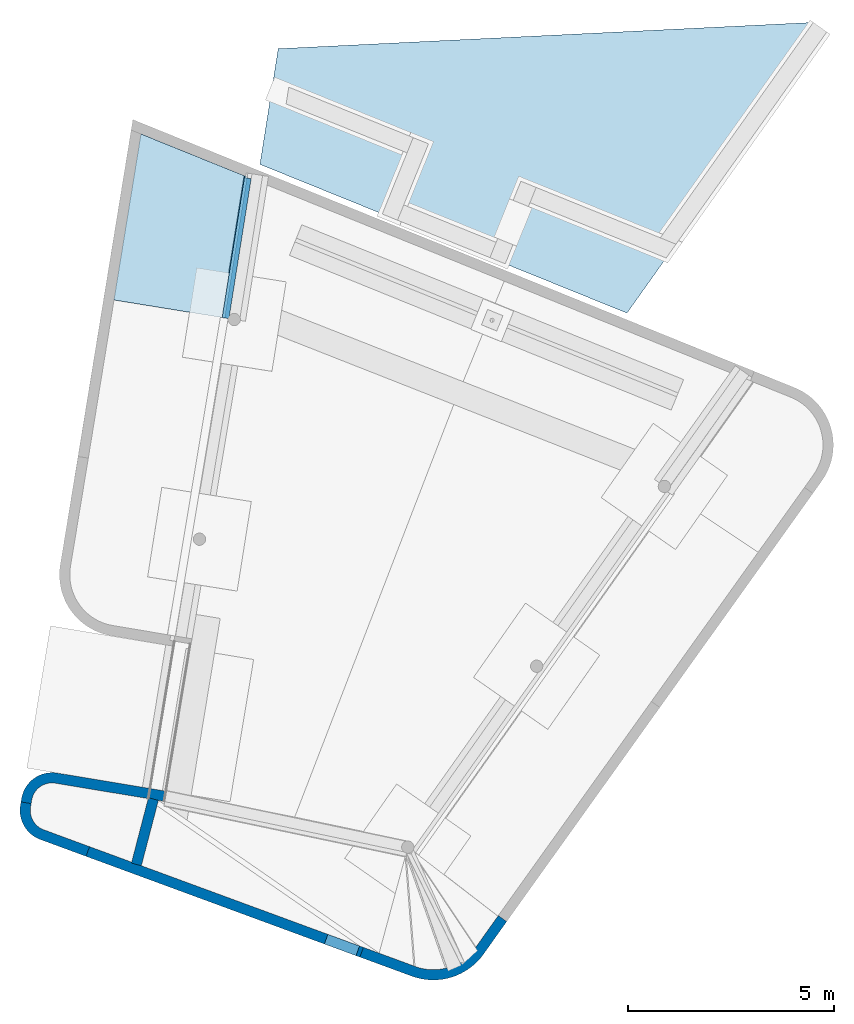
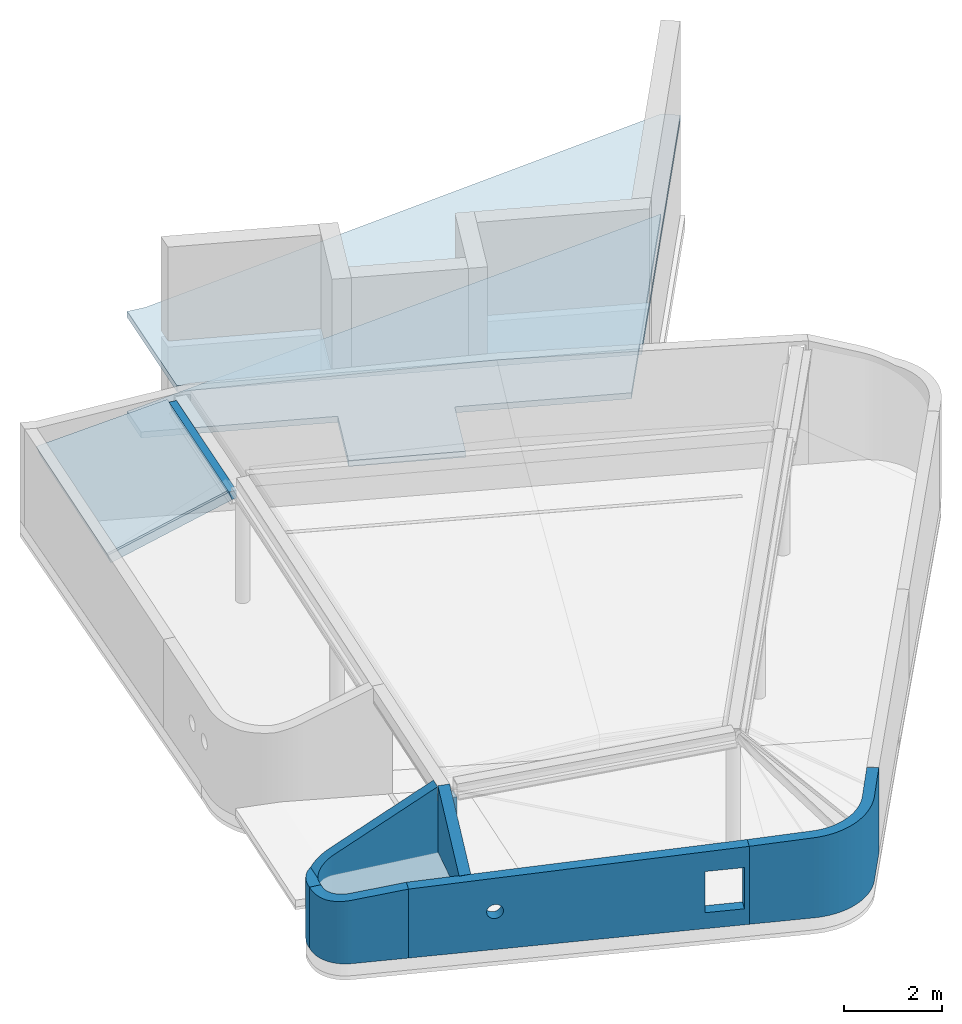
# One storey, part 6 of 8: 5 walls, 3 slabs, 2 plates.
"""IFC2X3 building model written with IfcOpenShell, lengths in millimetres."""

from ifc_helpers import new_model, si_unit, frame, origin_with_axes, place, context, subcontext, project, spatial, faceted_brep, material, type_object, element, save


model = new_model("IFC2X3")

# Units and contexts
model_context = context("Model", 3, precision=1e-05, world=origin_with_axes())
body_context = subcontext(model_context, "Body", "Model", "MODEL_VIEW")
ifc_project = project(units=[si_unit("LENGTHUNIT", "METRE", prefix="MILLI"), si_unit("AREAUNIT", "SQUARE_METRE"), si_unit("VOLUMEUNIT", "CUBIC_METRE"), si_unit("MASSUNIT", "GRAM", prefix="KILO"), si_unit("TIMEUNIT", "SECOND"), si_unit("PLANEANGLEUNIT", "RADIAN"), si_unit("SOLIDANGLEUNIT", "STERADIAN"), si_unit("THERMODYNAMICTEMPERATUREUNIT", "DEGREE_CELSIUS"), si_unit("LUMINOUSINTENSITYUNIT", "LUMEN")], contexts=[model_context])

# Site, building, storey
site_placement = place(None, origin_with_axes())
site = spatial("IfcSite", under=ifc_project, at=site_placement, Name="Site", CompositionType="ELEMENT")
building_placement = place(site_placement, origin_with_axes())
building = spatial("IfcBuilding", under=site, at=building_placement, Name="Undefined", CompositionType="ELEMENT")
storey_placement = place(building_placement, origin_with_axes())
storey = spatial("IfcBuildingStorey", under=building, at=storey_placement, Name="Undefined", CompositionType="ELEMENT", Elevation=0.0)

# Plates
ifc_material_1 = material(Name="MISCELLANEOUS/XPS")
plate_type_1 = type_object("IfcPlateType", Name="50*2815", PredefinedType="NOTDEFINED")
plate_1_placement = place(storey_placement, frame((42481.0998286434, 53716.4186731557, 39438.6257035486), z_axis=(-0.933283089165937, 0.148529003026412, -0.326989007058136), x_axis=(0.157172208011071, 0.987571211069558, -9.77400000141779e-06)))
element("IfcPlate", 1, at=plate_1_placement, inside=storey, type_object=plate_type_1, material=ifc_material_1, Name="ISOLASJON", ObjectType="50*2815", context=body_context, shape_type="Brep", body=[
    faceted_brep([(0.0, -25.0000000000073, 0.0), (8.53363636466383, -25.0000000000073, 2814.62060546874), (8.53363636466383, 24.9999999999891, 2814.62060546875), (0.0, 24.9999999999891, -7.27595761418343e-12), (3482.46399732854, 24.9999999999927, 9.28412191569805e-09), (3486.22923547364, -25.0000000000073, 9.29867383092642e-09), (4091.9975598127, -25.0000000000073, 2800.26733398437), (4091.99962289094, -25.0000000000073, 2783.00739444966), (4091.9975598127, 24.9999999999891, 2800.26733398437)], [[[0, 1, 2, 3]], [[0, 3, 4, 5]], [[6, 1, 0, 5, 7]], [[6, 7, 8]], [[1, 6, 8, 2]], [[3, 2, 8, 4]], [[7, 5, 4, 8]]]),
])
ifc_material_2 = material(Name="CONCRETE/C35/45")
plate_type_2 = type_object("IfcPlateType", Name="FIRKB167*200*100", PredefinedType="NOTDEFINED")
plate_2_placement = place(storey_placement, frame((43112.1072672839, 57100.8683448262, 39315.0), z_axis=(-0.987591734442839, 0.157043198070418, 0.0), x_axis=(-0.157043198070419, -0.987591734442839, 0.0)))
element("IfcPlate", 2, at=plate_2_placement, inside=storey, type_object=plate_type_2, material=ifc_material_2, Name="PLASSTØPTDEKKE", ObjectType="FIRKB167*200*100", context=body_context, shape_type="Brep", body=[
    faceted_brep([(0.0, -100.0, -83.5000000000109), (0.0, 100.0, -83.5000000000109), (3441.55337293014, 100.0, -83.5000000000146), (3441.55337293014, -100.0, -83.5000000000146), (0.0, 100.0, 83.5), (3441.55337293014, 100.0, 83.4999999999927), (0.0, -100.0, 16.4999999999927), (3441.55337293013, -100.0, 16.4999999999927)], [[[0, 1, 2, 3]], [[1, 4, 5, 2]], [[4, 6, 7, 5]], [[6, 0, 3, 7]], [[5, 7, 3, 2]], [[6, 4, 1, 0]]]),
])

# Slabs
slab_type_1 = type_object("IfcSlabType", Name="220*2815", PredefinedType="NOTDEFINED")
slab_1_placement = place(storey_placement, frame((42524.6944981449, 53709.4793077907, 39311.0469043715), z_axis=(-0.933283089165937, 0.148529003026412, -0.326989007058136), x_axis=(0.157172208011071, 0.987571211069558, -9.77400000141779e-06)))
element("IfcSlab", 3, at=slab_1_placement, inside=storey, type_object=slab_type_1, material=ifc_material_2, Name="PLASSTØPTDEKKE", ObjectType="220*2815", PredefinedType="FLOOR", context=body_context, shape_type="Brep", body=[
    faceted_brep([(-7.27595761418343e-12, -110.000000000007, 7.27595761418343e-12), (8.53363636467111, -110.000000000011, 2814.62060546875), (8.53363636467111, 109.999999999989, 2814.62060546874), (-1.30739863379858e-12, 110.0, 0.0), (3465.89694953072, 109.999999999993, -6.64294930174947e-09), (3482.46399736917, -110.000000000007, -6.67932908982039e-09), (4091.99755981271, -110.000000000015, 2800.26733398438), (4075.43693608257, 109.999999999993, 2800.32554415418)], [[[0, 1, 2, 3]], [[0, 3, 4, 5]], [[1, 0, 5, 6]], [[2, 1, 6, 7]], [[3, 2, 7, 4]], [[6, 5, 4, 7]]]),
])
slab_type_2 = type_object("IfcSlabType", Name="150*10621", PredefinedType="NOTDEFINED")
slab_2_placement = place(storey_placement, frame((43849.3624594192, 60242.8296802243, 39425.0), z_axis=(0.987763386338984, -0.15595990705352, 0.0), x_axis=(-0.155959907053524, -0.987763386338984, 0.0)))
element("IfcSlab", 4, at=slab_2_placement, inside=storey, type_object=slab_type_2, material=ifc_material_2, Name="PLASSTØPTDEKKE", ObjectType="150*10621", PredefinedType="FLOOR", context=body_context, shape_type="Brep", body=[
    faceted_brep([(0.0, -75.0, 0.0), (0.00135855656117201, -75.0, 400.000000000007), (0.00135855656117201, 75.0, 400.000000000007), (0.0, 75.0, 0.0), (-2657.08105468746, -75.0, 12733.9306640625), (-2657.08105468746, 75.0, 12733.9306640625), (-2479.06323242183, -75.0, 13092.1318359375), (-2479.06323242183, 75.0, 13092.1318359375), (5020.62158203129, -75.0, 9364.9716796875), (5020.62158203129, 75.0, 9364.9716796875), (2843.4501953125, -75.0, -1.67347025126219e-09), (2843.4501953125, 75.0, -1.67347025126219e-09)], [[[0, 1, 2, 3]], [[1, 4, 5, 2]], [[4, 6, 7, 5]], [[6, 8, 9, 7]], [[8, 10, 11, 9]], [[10, 0, 3, 11]], [[5, 7, 9, 11, 3, 2]], [[10, 8, 6, 4, 1, 0]]]),
])
slab_type_3 = type_object("IfcSlabType", Name="150*5042", PredefinedType="NOTDEFINED")
slab_3_placement = place(storey_placement, frame((49741.1291954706, 57024.8072013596, 36925.0), z_axis=(0.37599439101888, 0.926621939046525, 0.0), x_axis=(0.926621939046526, -0.375994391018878, 0.0)))
element("IfcSlab", 5, at=slab_3_placement, inside=storey, type_object=slab_type_3, material=ifc_material_2, Name="GULVPÅGRUNN", ObjectType="150*5042", PredefinedType="FLOOR", context=body_context, shape_type="Brep", body=[
    faceted_brep([(0.0, -75.0, 0.0), (0.776403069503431, -75.0, -1599.99963378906), (0.776403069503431, 75.0, -1599.99963378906), (0.0, 75.0, 0.0), (-2419.41528320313, -75.0, -1601.99084472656), (-2419.41528320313, 75.0, -1601.99084472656), (-2420.19580078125, -75.0, -1.9927761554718), (-2420.19580078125, 75.0, -1.9927761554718), (-6490.0751953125, -75.0, -3.13150596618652), (-6490.0751953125, 75.0, -3.13150596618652), (-6669.40478515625, -75.0, 766.621337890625), (-6669.40478515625, 75.0, 766.621337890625), (5129.64013671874, -75.0, 6243.4560546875), (5129.64013671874, 75.0, 6243.4560546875), (3655.189453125, -75.0, 6.54836185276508e-10), (3655.189453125, 75.0, 6.54836185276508e-10)], [[[0, 1, 2, 3]], [[1, 4, 5, 2]], [[4, 6, 7, 5]], [[6, 8, 9, 7]], [[8, 10, 11, 9]], [[10, 12, 13, 11]], [[12, 14, 15, 13]], [[14, 0, 3, 15]], [[5, 7, 9, 11, 13, 15, 3, 2]], [[14, 12, 10, 8, 6, 4, 1, 0]]]),
])

# Walls
ifc_material_3 = material(Name="CONCRETE/C45/55")
wall_type_1 = type_object("IfcWallType", Name="1800*250", PredefinedType="NOTDEFINED")
wall_1_placement = place(storey_placement, frame((40820.4645915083, 42027.1981775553, 39016.39), z_axis=(0.0, 0.0, 1.0), x_axis=(-0.252084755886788, -0.967705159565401, 0.0)))
element("IfcWall", 6, at=wall_1_placement, inside=storey, type_object=wall_type_1, material=ifc_material_3, Name="PLASSTØPTYTTERVEGG", ObjectType="1800*250", context=body_context, shape_type="Brep", body=[
    faceted_brep([(-0.000938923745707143, 124.999999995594, 749.99866069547), (-7.27595761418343e-12, -124.999999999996, 750.000334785), (1640.23619493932, -124.999999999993, -399.999582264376), (1640.23619493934, 124.999999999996, -400.001256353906), (-7.27595761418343e-12, -124.999999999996, -900.0), (-7.27595761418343e-12, 125.000000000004, -900.0), (1640.23619493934, 124.999999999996, -900.0), (1640.23619493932, -124.999999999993, -900.0)], [[[0, 1, 2, 3]], [[4, 5, 6, 7]], [[6, 5, 0, 3]], [[7, 6, 3, 2]], [[4, 7, 2, 1]], [[5, 4, 1, 0]]]),
])
wall_type_2 = type_object("IfcWallType", Name="3500*250", PredefinedType="NOTDEFINED")
wall_2_placement = place(storey_placement, frame((37728.6521940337, 41936.552008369, 38600.0000000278), z_axis=(0.0, 0.0, 1.0), x_axis=(0.163932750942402, 0.986471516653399, 0.0)))
element("IfcWall", 7, at=wall_2_placement, inside=storey, type_object=wall_type_2, material=ifc_material_3, Name="PLASSTØPTYTTERVEGG", ObjectType="3500*250", context=body_context, shape_type="Brep", body=[
    faceted_brep([(835.022442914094, -2898.43555166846, 1160.66619886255), (585.022454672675, -2898.46143309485, 1160.64881505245), (584.97868607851, -2898.33682803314, 799.999999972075), (835.022445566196, -2898.31094056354, 799.999995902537), (835.022782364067, -3324.3185111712, 799.99999590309), (585.022791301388, -3324.34439266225, 799.999999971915), (615.35053216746, -94.6697021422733, -1750.0), (560.815418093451, -45.2419930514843, -1750.0), (560.815418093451, -45.2419930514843, -225.001691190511), (615.35053216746, -94.6697021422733, -225.002182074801), (501.698144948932, -1.39766492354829, -1750.0), (501.698144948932, -1.39766492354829, -225.001255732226), (438.568043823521, 36.441037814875, -1750.0), (438.568043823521, 36.441037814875, -225.000879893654), (372.033091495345, 67.9097081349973, -1750.0), (372.033091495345, 67.9097081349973, -225.000567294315), (302.734055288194, 92.7052858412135, -1750.0), (302.734055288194, 92.7052858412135, -225.000320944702), (231.338322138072, 110.588976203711, -1750.0), (231.338322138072, 110.588976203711, -225.000143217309), (158.533471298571, 121.38854967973, -1750.0), (158.533471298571, 121.38854967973, -225.00003582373), (85.0206525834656, 125.000000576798, -1750.0), (85.0206525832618, 125.00000057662, -225.00000000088), (-8.47438059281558e-07, 125.0, -1750.0), (-8.47438059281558e-07, 125.0, -225.00000000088), (8.47445335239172e-07, -125.0, -1750.0), (8.47445335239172e-07, -125.0, -225.002481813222), (85.0206542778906, -124.99999942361, -1750.0), (85.0206542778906, -124.99999942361, -225.002482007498), (134.029200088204, -127.407633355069, -1750.0), (134.029200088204, -127.407633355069, -225.002506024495), (182.565767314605, -134.607349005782, -1750.0), (182.565767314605, -134.607349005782, -225.002577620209), (582.612984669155, -575.991060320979, -1750.0), (585.020657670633, -624.999604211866, -1750.0), (585.020657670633, -624.999604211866, 16.3925681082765), (582.612984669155, -575.991060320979, -8.27423603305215), (575.413230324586, -527.454498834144, -1750.0), (575.413230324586, -527.454498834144, -32.7040414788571), (563.490732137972, -479.857352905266, -1750.0), (563.490732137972, -479.857352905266, -56.6615760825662), (546.960310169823, -433.658008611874, -1750.0), (546.960310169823, -433.658008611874, -79.9161159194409), (525.981161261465, -389.301390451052, -1750.0), (525.981161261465, -389.301390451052, -102.243707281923), (500.755325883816, -347.214676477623, -1750.0), (500.755325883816, -347.214676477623, -123.429323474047), (471.525742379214, -307.803184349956, -1750.0), (471.525742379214, -307.803184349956, -143.268935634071), (438.573907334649, -271.44646790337, -1750.0), (438.573907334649, -271.44646790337, -161.571477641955), (402.217164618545, -238.494661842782, -1750.0), (402.217164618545, -238.494661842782, -178.160686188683), (362.805649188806, -209.265109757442, -1750.0), (362.805649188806, -209.265109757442, -192.876798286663), (320.718915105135, -184.039307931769, -1750.0), (320.718915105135, -184.039307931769, -205.578089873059), (276.362280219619, -163.06019438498, -1750.0), (276.362280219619, -163.06019438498, -216.14224068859), (230.16292274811, -146.529809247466, -1750.0), (230.16292274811, -146.529809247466, -224.467512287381), (225.921862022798, -145.467479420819, -225.002685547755), (661.300173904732, -145.367276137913, -225.002685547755), (664.778284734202, -149.204776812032, -1750.0), (664.778284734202, -149.204776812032, -223.070827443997), (708.622659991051, -208.322015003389, -1750.0), (708.622659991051, -208.322015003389, -193.31140920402), (746.461413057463, -271.452085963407, -1750.0), (746.461413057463, -271.452085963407, -161.532984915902), (777.93013641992, -337.987013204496, -1750.0), (777.93013641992, -337.987013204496, -128.041597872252), (802.725769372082, -407.286029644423, -1750.0), (802.725769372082, -407.286029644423, -93.1597881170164), (820.609516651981, -478.681748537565, -1750.0), (820.609516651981, -478.681748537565, -57.2234862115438), (831.409148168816, -551.486590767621, -1750.0), (831.409148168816, -551.486590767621, -20.5787780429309), (835.020657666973, -624.999406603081, -1750.0), (835.020657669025, -624.999406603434, 16.4214281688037), (835.0227913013, -3324.34419505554, -1750.0), (585.022791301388, -3324.34439266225, -1750.0)], [[[0, 1, 2, 3]], [[4, 3, 2, 5]], [[6, 7, 8, 9]], [[7, 10, 11, 8]], [[10, 12, 13, 11]], [[12, 14, 15, 13]], [[14, 16, 17, 15]], [[16, 18, 19, 17]], [[18, 20, 21, 19]], [[20, 22, 23, 21]], [[22, 24, 25, 23]], [[24, 26, 27, 25]], [[26, 28, 29, 27]], [[28, 30, 31, 29]], [[30, 32, 33, 31]], [[34, 35, 36, 37]], [[38, 34, 37, 39]], [[40, 38, 39, 41]], [[42, 40, 41, 43]], [[44, 42, 43, 45]], [[46, 44, 45, 47]], [[48, 46, 47, 49]], [[50, 48, 49, 51]], [[52, 50, 51, 53]], [[54, 52, 53, 55]], [[56, 54, 55, 57]], [[58, 56, 57, 59]], [[60, 58, 59, 61]], [[33, 32, 60, 61, 62]], [[9, 8, 11, 13, 15, 17, 19, 21, 23, 25, 27, 29, 31, 33, 62, 63]], [[64, 6, 9, 63, 65]], [[66, 64, 65, 67]], [[68, 66, 67, 69]], [[70, 68, 69, 71]], [[72, 70, 71, 73]], [[74, 72, 73, 75]], [[76, 74, 75, 77]], [[78, 76, 77, 79]], [[35, 34, 38, 40, 42, 44, 46, 48, 50, 52, 54, 56, 58, 60, 32, 30, 28, 26, 24, 22, 20, 18, 16, 14, 12, 10, 7, 6, 64, 66, 68, 70, 72, 74, 76, 78, 80, 81]], [[81, 80, 4, 5]], [[1, 36, 35, 81, 5, 2]], [[79, 77, 75, 73, 71, 69, 67, 65, 63, 62, 61, 59, 57, 55, 53, 51, 49, 47, 45, 43, 41, 39, 37, 36, 1, 0]], [[80, 78, 79, 0, 3, 4]]]),
])
wall_type_3 = type_object("IfcWallType", Name="2400*250", PredefinedType="NOTDEFINED")
wall_3_placement = place(storey_placement, frame((39227.094203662, 40753.8647299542, 38050.0), z_axis=(0.0, 0.0, 1.0), x_axis=(0.938490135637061, -0.345306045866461, 0.0)))
element("IfcWall", 8, at=wall_3_placement, inside=storey, type_object=wall_type_3, material=ifc_material_3, Name="PLASSTØPTYTTERVEGG", ObjectType="2400*250", context=body_context, shape_type="Brep", body=[
    faceted_brep([(1971.34045695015, 124.999255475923, -214.398766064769), (1971.34048352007, -124.999999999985, -214.401874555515), (1961.10276848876, -125.0, -181.659077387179), (1961.10274191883, 124.999218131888, -181.655968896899), (1944.67396543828, -124.999999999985, -151.542703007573), (1944.67393886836, 124.999185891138, -151.539594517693), (1922.68542405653, -124.999999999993, -125.210106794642), (1922.68539748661, 124.99915999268, -125.206998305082), (1895.98215165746, -124.999999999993, -103.673235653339), (1895.98212508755, 124.999141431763, -103.670127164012), (1865.59034002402, -124.999999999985, -87.7597394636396), (1865.59031345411, 124.9991309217, -87.7566309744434), (1832.67792943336, -124.999999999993, -78.0811649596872), (1832.67790286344, 124.999128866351, -78.0780564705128), (1798.50972536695, -124.999999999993, -75.0094543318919), (1798.50969879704, 124.999135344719, -75.0063458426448), (1764.39879274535, -125.0, -78.6626516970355), (1764.39876617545, 124.999150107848, -78.6595432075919), (1731.65599557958, -124.999999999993, -88.9003667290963), (1731.65596900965, 124.999172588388, -88.8972582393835), (1701.53962120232, -124.999999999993, -105.329169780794), (1701.53959463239, 124.999201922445, -105.326061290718), (1675.20702499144, -125.0, -127.317711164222), (1675.20699842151, 124.999236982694, -127.314602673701), (1653.67015385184, -124.999999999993, -154.020983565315), (1653.67012728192, 124.999276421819, -154.017875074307), (1637.7566576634, -124.999999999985, -184.412795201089), (1637.75663109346, 124.999318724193, -184.409686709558), (1628.07808316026, -125.0, -217.325205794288), (1628.07805659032, 124.999362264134, -217.322097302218), (1625.00637253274, -124.999999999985, -251.493409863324), (1625.00634596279, 124.999405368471, -251.490301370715), (1628.65956989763, -124.999999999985, -285.604342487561), (1628.65954332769, 124.999446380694, -285.601233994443), (1638.89728492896, -124.999999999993, -318.347139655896), (1638.89725835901, 124.999483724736, -318.344031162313), (1655.32608797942, -124.999999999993, -348.463514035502), (1655.32606140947, 124.999515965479, -348.460405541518), (1677.31462936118, -124.999999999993, -374.796110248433), (1677.31460279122, 124.999541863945, -374.793001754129), (1704.01790176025, -125.0, -396.332981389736), (1704.01787519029, 124.999560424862, -396.3298728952), (1734.40971339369, -124.999999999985, -412.246477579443), (1734.40968682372, 124.999570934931, -412.243369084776), (1767.32212398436, -124.999999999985, -421.925052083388), (1767.32209741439, 124.999572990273, -421.921943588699), (1801.49032805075, -124.999999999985, -424.996762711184), (1801.49030148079, 124.999566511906, -424.993654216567), (1835.60126067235, -124.999999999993, -421.34356534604), (1835.60123410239, 124.999551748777, -421.34045685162), (1868.34405783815, -124.999999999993, -411.105850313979), (1868.34403126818, 124.999529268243, -411.102741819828), (1898.4604322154, -125.0, -394.677047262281), (1898.46040564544, 124.99949993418, -394.673938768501), (1924.79302842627, -124.999999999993, -372.688505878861), (1924.79300185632, 124.99946487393, -372.68539738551), (1946.32989956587, -124.999999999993, -345.985233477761), (1946.32987299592, 124.999425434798, -345.982124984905), (1962.2433957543, -124.999999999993, -315.593421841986), (1962.24336918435, 124.999383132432, -315.590313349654), (1971.92197025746, -125.0, -282.681011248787), (1971.92194368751, 124.999339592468, -282.677902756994), (1974.99368088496, -124.999999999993, -248.512807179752), (1974.99365431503, 124.999296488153, -248.509698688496), (7084.6351250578, -124.999999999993, -1200.0), (7084.6351250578, 125.0, -1200.0), (7084.63512505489, 124.995462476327, 750.564185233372), (7084.6351250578, -124.999999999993, 750.564190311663), (3.63797880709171e-12, -124.999999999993, -1200.0), (1.09139364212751e-11, 125.000000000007, -1200.0), (3.63797880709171e-12, -124.999999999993, 525.00000000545), (1.09139364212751e-11, 125.000000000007, 525.000000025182), (6164.636879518, 124.99871796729, -800.0), (6984.63426300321, 124.998471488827, -800.0), (6984.63426300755, 124.997199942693, 230.0), (6164.63687952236, 124.997446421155, 230.0), (6164.63773539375, -124.999999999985, -800.0), (6984.6351188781, -124.999999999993, -800.0), (6164.63773539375, -124.999999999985, 230.0), (6984.6351188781, -124.999999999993, 230.0)], [[[0, 1, 2, 3]], [[3, 2, 4, 5]], [[5, 4, 6, 7]], [[7, 6, 8, 9]], [[9, 8, 10, 11]], [[11, 10, 12, 13]], [[13, 12, 14, 15]], [[15, 14, 16, 17]], [[17, 16, 18, 19]], [[19, 18, 20, 21]], [[21, 20, 22, 23]], [[23, 22, 24, 25]], [[25, 24, 26, 27]], [[27, 26, 28, 29]], [[29, 28, 30, 31]], [[31, 30, 32, 33]], [[33, 32, 34, 35]], [[35, 34, 36, 37]], [[37, 36, 38, 39]], [[39, 38, 40, 41]], [[41, 40, 42, 43]], [[43, 42, 44, 45]], [[45, 44, 46, 47]], [[47, 46, 48, 49]], [[49, 48, 50, 51]], [[51, 50, 52, 53]], [[53, 52, 54, 55]], [[55, 54, 56, 57]], [[57, 56, 58, 59]], [[59, 58, 60, 61]], [[61, 60, 62, 63]], [[63, 62, 1, 0]], [[64, 65, 66, 67]], [[68, 69, 65, 64]], [[69, 68, 70, 71]], [[66, 71, 70, 67]], [[65, 69, 71, 66], [3, 5, 7, 9, 11, 13, 15, 17, 19, 21, 23, 25, 27, 29, 31, 33, 35, 37, 39, 41, 43, 45, 47, 49, 51, 53, 55, 57, 59, 61, 63, 0], [72, 73, 74, 75]], [[72, 76, 77, 73]], [[75, 78, 76, 72]], [[74, 79, 78, 75]], [[73, 77, 79, 74]], [[68, 64, 67, 70], [58, 56, 54, 52, 50, 48, 46, 44, 42, 40, 38, 36, 34, 32, 30, 28, 26, 24, 22, 20, 18, 16, 14, 12, 10, 8, 6, 4, 2, 1, 62, 60], [76, 78, 79, 77]]]),
])
wall_type_4 = type_object("IfcWallType", Name="2100*250", PredefinedType="NOTDEFINED")
wall_4_placement = place(storey_placement, frame((39227.1566443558, 40753.8417367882, 37900.0), z_axis=(0.0, 0.0, 1.0), x_axis=(-0.938306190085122, 0.34580557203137, 0.0)))
element("IfcWall", 9, at=wall_4_placement, inside=storey, type_object=wall_type_4, material=ifc_material_3, Name="PLASSTØPTYTTERVEGG", ObjectType="2100*250", context=body_context, shape_type="Brep", body=[
    faceted_brep([(1937.83139890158, -568.139642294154, 475.002865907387), (1921.88633775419, -484.518872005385, 475.002965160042), (1904.44905922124, -412.576180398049, 475.003073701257), (1880.0045545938, -342.702896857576, 475.003225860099), (1848.790959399, -275.579718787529, 475.003420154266), (1811.11235284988, -211.860552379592, 475.003654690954), (1767.33579554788, -152.166142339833, 475.003927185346), (1717.88775362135, -97.0780246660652, 475.004234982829), (1692.25610386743, -73.647785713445, 475.00439453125), (1692.2560982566, -614.966682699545, 475.00439453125), (6.28231646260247e-07, -125.0, 674.996826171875), (1185.16043293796, -124.999993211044, 534.933442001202), (1234.45079101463, -127.435463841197, 529.108260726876), (1283.26096817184, -134.718150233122, 523.339827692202), (1331.11546135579, -146.777105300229, 517.684338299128), (1377.54807766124, -163.494852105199, 512.196887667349), (1422.10647594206, -184.708528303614, 506.93093390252), (1464.35657346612, -210.211472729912, 501.937777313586), (1503.88677469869, -239.755238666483, 497.266060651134), (1540.3119810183, -273.052014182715, 492.961295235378), (1573.27734230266, -309.777425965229, 489.065417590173), (1602.46171383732, -349.573699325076, 485.61638090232), (1627.58078487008, -392.053143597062, 482.647785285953), (1648.38984833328, -436.801928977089, 480.188550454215), (1664.68618475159, -483.384118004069, 478.262633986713), (1676.31103711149, -531.345912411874, 476.888797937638), (1663.24994414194, -47.1328613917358, 478.432369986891), (1603.95464229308, -2.817212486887, 485.439944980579), (1540.57949600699, 35.4372041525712, 492.929679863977), (1473.74189858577, 67.2577184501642, 500.828610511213), (1404.09297412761, 92.3343386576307, 509.059786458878), (1332.31123435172, 110.422771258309, 517.543020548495), (1259.09596861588, 121.346800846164, 526.195670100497), (1185.16043150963, 125.000006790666, 534.933442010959), (-7.16041540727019e-07, 125.0, 674.996826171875), (1676.31103711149, -531.345912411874, -1050.0), (1664.68618475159, -483.384118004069, -1050.0), (1648.38984833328, -436.801928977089, -1050.0), (1627.58078487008, -392.053143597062, -1050.0), (1602.46171383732, -349.573699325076, -1050.0), (1573.27734230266, -309.777425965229, -1050.0), (1540.3119810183, -273.052014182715, -1050.0), (1503.88677469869, -239.755238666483, -1050.0), (1464.35657346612, -210.211472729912, -1050.0), (1422.10647594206, -184.708528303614, -1050.0), (1377.54807766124, -163.494852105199, -1050.0), (1331.11546135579, -146.777105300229, -1050.0), (1283.26096817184, -134.718150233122, -1050.0), (1234.45079101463, -127.435463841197, -1050.0), (1185.16043293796, -124.999993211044, -1050.0), (7.16037902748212e-07, -125.0, -1050.0), (-7.16041540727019e-07, 125.0, -1050.0), (1185.1604315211, 125.000006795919, -1050.0), (1259.09596861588, 121.346800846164, -1050.0), (1332.31123435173, 110.422771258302, -1050.0), (1404.09297412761, 92.3343386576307, -1050.0), (1473.74189858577, 67.2577184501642, -1050.0), (1540.57949600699, 35.4372041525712, -1050.0), (1603.95464229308, -2.81721248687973, -1050.0), (1663.24994414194, -47.1328613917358, -1050.0), (1717.88775362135, -97.0780246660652, -1050.0), (1767.33579554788, -152.166142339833, -1050.0), (1811.11235284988, -211.860552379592, -1050.0), (1848.790959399, -275.579718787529, -1050.0), (1880.0045545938, -342.702896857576, -1050.0), (1904.44905922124, -412.576180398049, -1050.0), (1921.88633773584, -484.518871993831, -1050.0), (1937.83139890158, -568.139642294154, -1050.0), (1692.2560982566, -614.966682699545, -1050.0)], [[[0, 1, 2, 3, 4, 5, 6, 7, 8, 9]], [[10, 11, 12, 13, 14, 15, 16, 17, 18, 19, 20, 21, 22, 23, 24, 25, 9, 8, 26, 27, 28, 29, 30, 31, 32, 33, 34]], [[35, 36, 37, 38, 39, 40, 41, 42, 43, 44, 45, 46, 47, 48, 49, 50, 51, 52, 53, 54, 55, 56, 57, 58, 59, 60, 61, 62, 63, 64, 65, 66, 67, 68]], [[51, 50, 10, 34]], [[52, 51, 34, 33]], [[53, 52, 33, 32]], [[54, 53, 32, 31]], [[55, 54, 31, 30]], [[56, 55, 30, 29]], [[57, 56, 29, 28]], [[58, 57, 28, 27]], [[59, 58, 27, 26]], [[7, 60, 59, 26, 8]], [[61, 60, 7, 6]], [[62, 61, 6, 5]], [[63, 62, 5, 4]], [[64, 63, 4, 3]], [[65, 64, 3, 2]], [[66, 65, 2, 1]], [[67, 66, 1, 0]], [[68, 67, 0, 9]], [[35, 68, 9, 25]], [[36, 35, 25, 24]], [[37, 36, 24, 23]], [[38, 37, 23, 22]], [[39, 38, 22, 21]], [[40, 39, 21, 20]], [[41, 40, 20, 19]], [[42, 41, 19, 18]], [[43, 42, 18, 17]], [[44, 43, 17, 16]], [[45, 44, 16, 15]], [[46, 45, 15, 14]], [[47, 46, 14, 13]], [[48, 47, 13, 12]], [[49, 48, 12, 11]], [[50, 49, 11, 10]]]),
])
wall_type_5 = type_object("IfcWallType", Name="2500*250", PredefinedType="NOTDEFINED")
wall_5_placement = place(storey_placement, frame((45875.8910667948, 38307.5206645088, 38100.0), z_axis=(0.0, 0.0, 1.0), x_axis=(0.938676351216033, -0.344799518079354, 0.0)))
element("IfcWall", 10, at=wall_5_placement, inside=storey, type_object=wall_type_5, material=ifc_material_3, Name="PLASSTØPTYTTERVEGG", ObjectType="2500*250", context=body_context, shape_type="Brep", body=[
    faceted_brep([(2.48423020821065e-07, 125.000000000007, 700.00000010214), (-2.48430296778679e-07, -124.999999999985, 700.000000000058), (1314.06113120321, -125.000002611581, 752.729150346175), (1314.06113169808, 124.999997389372, 752.729150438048), (1346.22178759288, 124.999997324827, 754.05959620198), (1346.2217870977, -125.000002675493, 754.059596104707), (1414.67449154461, -122.518082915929, 756.891398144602), (1398.42486034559, 126.892747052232, 756.219171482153), (1436.74638628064, 128.28218744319, 757.899703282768), (1454.85130552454, -121.061374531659, 758.653290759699), (1515.08547164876, -114.486505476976, 761.295476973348), (1482.66247050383, 133.294164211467, 759.913823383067), (1526.79559465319, 138.111521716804, 761.960014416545), (1562.91035557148, -109.266173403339, 763.512832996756), (1614.83465326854, -99.7527269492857, 765.922115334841), (1566.38003753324, 145.364089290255, 763.796728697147), (1615.89651888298, 154.436381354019, 766.219380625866), (1669.83146464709, -89.6763418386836, 768.612898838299), (1713.46306285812, -78.3636609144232, 770.750831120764), (1649.1834300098, 163.066920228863, 767.850427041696), (1703.58124506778, 177.171036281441, 770.65558243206), (1775.05313606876, -62.3947559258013, 773.926872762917), (1810.51485748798, -50.399627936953, 775.760038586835), (1730.68076314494, 186.337601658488, 772.056470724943), (1905.54000754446, -15.9741251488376, 780.927164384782), (1810.48485576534, 215.081783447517, 776.395529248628), (1789.38929647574, 206.196095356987, 775.245445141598), (1878.02279775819, -27.5646850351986, 779.426985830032), (1998.09695218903, 24.7666450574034, 786.228771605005), (1888.21566685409, 249.176209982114, 780.847501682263), (1872.87005174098, 241.359133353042, 779.964959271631), (1978.19970407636, 14.6309605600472, 785.084460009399), (2087.75520438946, 71.6444822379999, 791.640690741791), (1963.50268833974, 288.469336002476, 785.391635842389), (1953.5851113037, 282.475491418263, 784.789405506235), (2075.05777555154, 63.970590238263, 790.869657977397), (2174.09788334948, 124.45012388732, 797.138156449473), (2035.98727171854, 332.782162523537, 790.006653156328), (2031.11059966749, 329.329246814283, 789.693483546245), (2168.088361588, 120.195096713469, 796.752237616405), (2256.80291164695, 183.009216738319, 802.695824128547), (2105.3248671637, 381.909284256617, 794.67087804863), (2105.03939138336, 381.674346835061, 794.651444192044), (2334.89161463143, 247.273717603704, 808.268955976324), (2170.93800355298, 435.906793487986, 799.348815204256), (2408.55030210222, 316.676343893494, 813.847354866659), (2232.70973464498, 494.220124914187, 804.028107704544), (2174.98324907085, 439.235900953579, 799.650258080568), (2340.73554087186, 252.083081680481, 808.704432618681), (2477.36030850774, 390.83387306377, 819.405149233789), (2290.3689413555, 556.5483983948, 808.687496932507), (2240.57486224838, 501.711624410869, 804.651613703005), (2419.44547668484, 327.053949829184, 814.711067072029), (2541.01095105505, 469.398880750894, 824.916731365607), (2343.65024098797, 622.591798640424, 813.305015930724), (2301.4697762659, 568.773425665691, 809.62834155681), (2492.5193735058, 407.528111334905, 820.689946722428), (2599.21800063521, 552.002877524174, 830.356792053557), (2392.31175109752, 692.032169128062, 817.858983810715), (2357.34820120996, 640.06912936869, 814.554289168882), (2559.57348343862, 493.082955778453, 826.609660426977), (2651.72519580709, 638.258515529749, 835.700465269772), (2436.13644468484, 764.535054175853, 822.328137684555), (2407.91669128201, 715.224325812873, 819.403539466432), (2620.25567152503, 583.269191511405, 832.439071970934), (2698.3055541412, 727.76191292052, 840.923469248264), (2474.93330856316, 839.751850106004, 826.691760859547), (2452.90968583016, 793.844337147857, 824.150547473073), (2674.24726498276, 677.613205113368, 838.147484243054), (2738.76247092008, 820.095076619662, 846.002242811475), (2508.53829530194, 917.322045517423, 830.929806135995), (2492.09090394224, 875.516290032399, 828.770275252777), (2721.26472671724, 775.619548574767, 843.704801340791), (2772.93059690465, 914.828403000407, 850.914075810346), (2536.81506106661, 996.875529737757, 835.023013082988), (2525.25458527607, 959.8112838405, 833.238324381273), (2761.06114431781, 876.773541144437, 849.081687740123), (2801.78776885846, 1011.21656839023, 855.714158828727), (2560.7943507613, 1077.72066810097, 839.031854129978), (2552.22657061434, 1046.2866430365, 837.531065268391), (2793.42752671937, 980.543972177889, 854.24972370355), (3047.96250507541, 1914.39833705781, 900.001501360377), (2806.76154896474, 1980.14100791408, 883.281860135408), (2793.42752671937, 980.543972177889, -1250.0), (2761.06114431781, 876.773541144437, -1250.0), (2721.26472671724, 775.619548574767, -1250.0), (2674.24726498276, 677.613205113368, -1250.0), (2620.25567152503, 583.269191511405, -1250.0), (2559.57348343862, 493.082955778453, -1250.0), (2492.5193735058, 407.528111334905, -1250.0), (2419.44547668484, 327.053949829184, -1250.0), (2340.73554087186, 252.083081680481, -1250.0), (2256.80291164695, 183.009216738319, -1250.0), (2168.088361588, 120.195096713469, -1250.0), (2075.05777555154, 63.970590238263, -1250.0), (1978.19970407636, 14.6309605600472, -1250.0), (1878.02279775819, -27.5646850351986, -1250.0), (1775.05313606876, -62.3947559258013, -1250.0), (1669.83146464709, -89.6763418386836, -1250.0), (1562.91035557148, -109.266173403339, -1250.0), (1454.85130552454, -121.061374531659, -1250.0), (1346.2217870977, -125.000002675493, -1250.0), (-2.48430296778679e-07, -124.999999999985, -1250.0), (2.48423020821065e-07, 125.000000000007, -1250.0), (1346.22178758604, 124.999997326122, -1250.0), (1436.74638628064, 128.28218744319, -1250.0), (1526.79559465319, 138.111521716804, -1250.0), (1615.89651888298, 154.436381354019, -1250.0), (1703.58124506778, 177.171036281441, -1250.0), (1789.38929647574, 206.196095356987, -1250.0), (1872.87005174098, 241.359133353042, -1250.0), (1953.5851113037, 282.475491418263, -1250.0), (2031.11059966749, 329.329246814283, -1250.0), (2105.03939138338, 381.674346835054, -1250.0), (2174.98324907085, 439.235900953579, -1250.0), (2240.57486224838, 501.711624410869, -1250.0), (2301.4697762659, 568.773425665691, -1250.0), (2357.34820120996, 640.06912936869, -1250.0), (2407.91669128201, 715.224325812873, -1250.0), (2452.90968583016, 793.844337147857, -1250.0), (2492.09090394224, 875.516290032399, -1250.0), (2525.25458527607, 959.8112838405, -1250.0), (2552.22657063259, 1046.28664304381, -1250.0), (2806.76154896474, 1980.14100791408, -1250.0), (3047.96250507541, 1914.39833705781, -1250.0)], [[[0, 1, 2, 3]], [[4, 3, 2, 5, 6, 7]], [[8, 7, 6, 9, 10, 11]], [[12, 11, 10, 13, 14, 15]], [[16, 15, 14, 17, 18, 19]], [[20, 19, 18, 21, 22, 23]], [[24, 25, 26, 23, 22, 27]], [[28, 29, 30, 25, 24, 31]], [[32, 33, 34, 29, 28, 35]], [[36, 37, 38, 33, 32, 39]], [[40, 41, 42, 37, 36]], [[43, 44, 41, 40]], [[45, 46, 47, 44, 43, 48]], [[49, 50, 51, 46, 45, 52]], [[53, 54, 55, 50, 49, 56]], [[57, 58, 59, 54, 53, 60]], [[61, 62, 63, 58, 57, 64]], [[65, 66, 67, 62, 61, 68]], [[69, 70, 71, 66, 65, 72]], [[73, 74, 75, 70, 69, 76]], [[77, 78, 79, 74, 73, 80]], [[81, 82, 78, 77]], [[83, 84, 85, 86, 87, 88, 89, 90, 91, 92, 93, 94, 95, 96, 97, 98, 99, 100, 101, 102, 103, 104, 105, 106, 107, 108, 109, 110, 111, 112, 113, 114, 115, 116, 117, 118, 119, 120, 121, 122, 123, 124]], [[80, 83, 124, 81, 77]], [[76, 84, 83, 80, 73]], [[72, 85, 84, 76, 69]], [[68, 86, 85, 72, 65]], [[64, 87, 86, 68, 61]], [[60, 88, 87, 64, 57]], [[56, 89, 88, 60, 53]], [[52, 90, 89, 56, 49]], [[48, 91, 90, 52, 45]], [[40, 92, 91, 48, 43]], [[39, 93, 92, 40, 36]], [[35, 94, 93, 39, 32]], [[31, 95, 94, 35, 28]], [[27, 96, 95, 31, 24]], [[21, 97, 96, 27, 22]], [[17, 98, 97, 21, 18]], [[13, 99, 98, 17, 14]], [[9, 100, 99, 13, 10]], [[5, 101, 100, 9, 6]], [[1, 102, 101, 5, 2]], [[103, 102, 1, 0]], [[104, 103, 0, 3, 4]], [[105, 104, 4, 7, 8]], [[106, 105, 8, 11, 12]], [[107, 106, 12, 15, 16]], [[108, 107, 16, 19, 20]], [[109, 108, 20, 23, 26]], [[110, 109, 26, 25, 30]], [[111, 110, 30, 29, 34]], [[112, 111, 34, 33, 38]], [[113, 112, 38, 37, 42]], [[114, 113, 42, 41, 44, 47]], [[115, 114, 47, 46, 51]], [[116, 115, 51, 50, 55]], [[117, 116, 55, 54, 59]], [[118, 117, 59, 58, 63]], [[119, 118, 63, 62, 67]], [[120, 119, 67, 66, 71]], [[121, 120, 71, 70, 75]], [[122, 121, 75, 74, 79]], [[123, 122, 79, 78, 82]], [[124, 123, 82, 81]]]),
])

save(model, "model.ifc")
